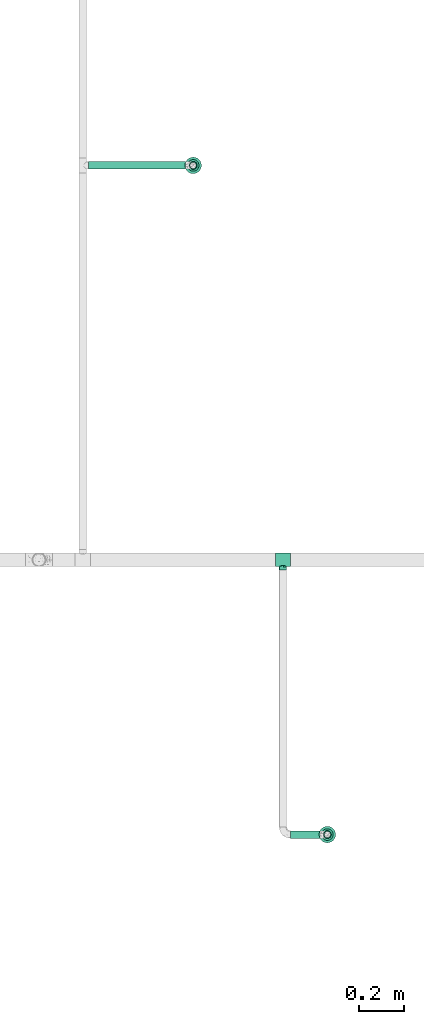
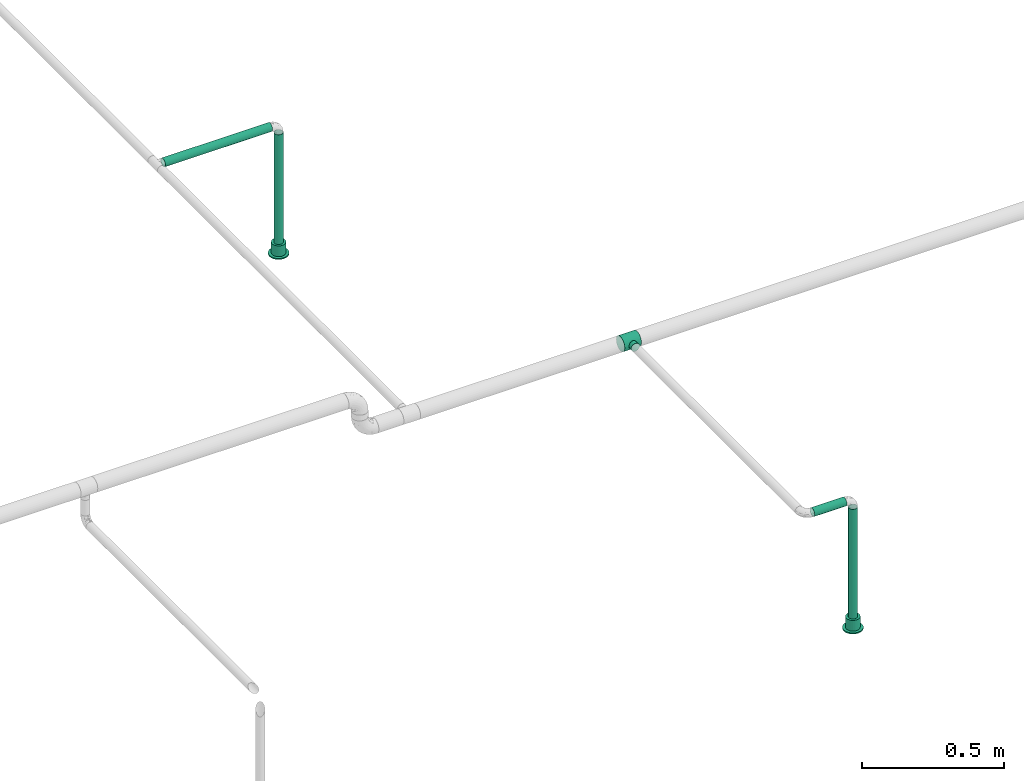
# One storey, part 25 of 95: 4 flow segments, 2 flow terminals, 1 flow fitting.
"""IFC2X3 building model written with IfcOpenShell, lengths in millimetres."""

from ifc_helpers import new_model, entity, si_unit, converted_unit, derived_unit, direction, frame, origin_with_axes, origin_2d_with_axis, place, context, subcontext, project, spatial, hollow_circle, extrude, open_shell, surface_model, source, transform, mapped, type_object, element, save


model = new_model("IFC2X3")

# Units and contexts
model_context = context("Model", 3, precision=0.01, world=frame((0.0, 4.29681676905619e-09, 0.0)), true_north=direction((4.01073788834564e-13, 1.0)))
plan_context = context("Plan", 3, precision=0.01, world=frame((0.0, 4.29681676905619e-09, 0.0)), true_north=direction((4.01073788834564e-13, 1.0)))
body_context = subcontext(model_context, "Body", "Model", "MODEL_VIEW")
ifc_project = project(units=[converted_unit("PLANEANGLEUNIT", "DEGREE", entity("IfcPositiveLengthMeasure", 0.0174532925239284), si_unit("PLANEANGLEUNIT", "RADIAN"), dimensions=[0, 0, 0, 0, 0, 0, 0]), si_unit("AREAUNIT", "SQUARE_METRE"), si_unit("LENGTHUNIT", "METRE", prefix="MILLI"), si_unit("MASSUNIT", "GRAM", prefix="KILO"), si_unit("POWERUNIT", "WATT"), si_unit("PRESSUREUNIT", "PASCAL"), si_unit("FORCEUNIT", "NEWTON", prefix="KILO"), si_unit("ELECTRICVOLTAGEUNIT", "VOLT"), si_unit("ELECTRICCURRENTUNIT", "AMPERE"), si_unit("THERMODYNAMICTEMPERATUREUNIT", "DEGREE_CELSIUS"), si_unit("TIMEUNIT", "SECOND"), si_unit("VOLUMEUNIT", "CUBIC_METRE"), derived_unit("LINEARVELOCITYUNIT", [(si_unit("LENGTHUNIT", "METRE"), 1), (si_unit("TIMEUNIT", "SECOND"), -1)]), derived_unit("VOLUMETRICFLOWRATEUNIT", [(si_unit("VOLUMEUNIT", "CUBIC_METRE"), 1), (si_unit("TIMEUNIT", "SECOND"), -1)]), derived_unit("THERMALTRANSMITTANCEUNIT", [(si_unit("POWERUNIT", "WATT"), 1), (si_unit("THERMODYNAMICTEMPERATUREUNIT", "KELVIN"), -1), (si_unit("AREAUNIT", "SQUARE_METRE"), -1)]), derived_unit("SOUNDPRESSUREUNIT", [(si_unit("PRESSUREUNIT", "PASCAL"), 1)])], contexts=[model_context, plan_context])

# Site, building, storey
site_placement = place(None, frame((0.0, -4.29681676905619e-09, 0.0), z_axis=(0.0, 0.0, 1.0), x_axis=(1.0, 0.0, 0.0)))
site = spatial("IfcSite", under=ifc_project, at=site_placement, CompositionType="ELEMENT")
building_placement = place(site_placement, frame((0.0, 4.29681676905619e-09, 0.0), z_axis=(0.0, 0.0, 1.0), x_axis=(1.0, 0.0, 0.0)))
building = spatial("IfcBuilding", under=site, at=building_placement, Name="mc-building", CompositionType="ELEMENT")
storey_placement = place(building_placement, frame((0.0, 0.0, 210900.0), z_axis=(0.0, 0.0, 1.0), x_axis=(1.0, 0.0, 0.0)))
storey = spatial("IfcBuildingStorey", under=building, at=storey_placement, Name="Nivå F", CompositionType="ELEMENT", Elevation=210900.0)

# Flow fitting
pipe_fitting_type = type_object("IfcPipeFittingType", Name="magi_pipe_fe_tee_centric_90_NOR", PredefinedType="JUNCTION")
shared_shape_1 = source(origin_with_axes(), body_context, "Body", "SurfaceModel", [
    surface_model("IfcShellBasedSurfaceModel", [(-33.8, 15.1, -26.15397), (-33.8, 7.81634, -29.17096), (-33.8, 0.0, -30.2), (-33.8, 29.17096, -7.81634), (-33.8, 26.15397, -15.1), (-33.8, 21.35462, -21.35462), (-33.8, 30.2, 0.0), (-33.8, -30.2, 0.0), (-33.8, -15.1, -26.15397), (-33.8, -21.35462, -21.35462), (-33.8, -7.81634, -29.17096), (-33.8, -26.15397, -15.1), (-33.8, -29.17096, -7.81634), (-33.8, 26.15397, 15.1), (-33.8, 29.17096, 7.81634), (-33.8, 15.1, 26.15397), (-33.8, -21.35462, 21.35462), (-33.8, 21.35462, 21.35462), (-33.8, 7.81634, 29.17096), (-33.8, -29.17096, 7.81634), (-33.8, -26.15397, 15.1), (-33.8, -7.81634, 29.17096), (-33.8, 0.0, 30.2), (-33.8, -15.1, 26.15397), (33.8, 29.17096, -7.81634), (33.8, 0.0, -30.2), (33.8, 7.81634, -29.17096), (33.8, 21.35462, -21.35462), (33.8, 15.1, -26.15397), (33.8, 26.15397, -15.1), (33.8, -30.2, 0.0), (33.8, -7.81634, -29.17096), (33.8, -21.35462, -21.35462), (33.8, -15.1, -26.15397), (33.8, -29.17096, -7.81634), (33.8, -26.15397, -15.1), (33.8, 30.2, 0.0), (33.8, 29.17096, 7.81634), (33.8, 26.15397, 15.1), (33.8, -29.17096, 7.81634), (33.8, 15.1, 26.15397), (33.8, 7.81634, 29.17096), (33.8, 21.35462, 21.35462), (33.8, -21.35462, 21.35462), (33.8, -26.15397, 15.1), (33.8, -15.1, 26.15397), (33.8, 0.0, 30.2), (33.8, -7.81634, 29.17096), (33.8, -29.68548, 3.90817), (15.846, -29.62306, 5.87488), (16.373, -29.91153, 2.93744), (12.91037, -28.16217, 10.90561), (2.99213, -25.2068, 16.63301), (16.9, -30.2, 0.0), (33.8, -27.66246, 11.45817), (8.50854, -26.43531, 14.60187), (-8.51006, -26.43579, 14.60099), (-33.8, -27.66246, 11.45817), (-12.91447, -28.16405, 10.90075), (-15.84655, -29.62335, 5.87341), (-33.8, -29.68548, 3.90817), (-16.37327, -29.91168, 2.93671), (-16.9, -30.2, 0.0), (-2.99705, -25.20739, 16.63213), (2.99213, -25.2068, -16.63301), (-16.37327, -29.91168, -2.93671), (8.50854, -26.43531, -14.60187), (33.8, -27.66246, -11.45817), (16.373, -29.91153, -2.93744), (-33.8, -29.68548, -3.90817), (-15.84655, -29.62335, -5.87341), (15.846, -29.62306, -5.87488), (12.91037, -28.16217, -10.90561), (33.8, -29.68548, -3.90817), (-2.99705, -25.20739, -16.63213), (-8.51006, -26.43579, -14.60099), (-12.91447, -28.16405, -10.90075), (-33.8, -27.66246, -11.45817), (4.37404, -45.3, -16.32415), (-16.9, -45.3, 0.0), (0.0, -45.3, -16.9), (14.63583, -45.3, -8.45), (8.45, -45.3, -14.63583), (16.32415, -45.3, -4.37404), (11.9501, -45.3, -11.9501), (-11.9501, -45.3, -11.9501), (-8.45, -45.3, -14.63583), (-4.37404, -45.3, -16.32415), (-14.63583, -45.3, -8.45), (-16.32415, -45.3, -4.37404), (16.9, -45.3, 0.0), (8.45, -45.3, 14.63583), (16.32415, -45.3, 4.37404), (14.63583, -45.3, 8.45), (-8.45, -45.3, 14.63583), (11.9501, -45.3, 11.9501), (4.37404, -45.3, 16.32415), (-16.32415, -45.3, 4.37404), (-11.9501, -45.3, 11.9501), (-14.63583, -45.3, 8.45), (0.0, -45.3, 16.9), (-4.37404, -45.3, 16.32415), (-5.75355, -25.82159, 15.61656), (-0.00246, -25.20709, 16.63257), (5.75034, -25.82105, 15.61744), (5.75034, -25.82105, -15.61744), (-0.00246, -25.20709, -16.63257), (-5.75355, -25.82159, -15.61656)], [open_shell([[[0, 1, 2]], [[3, 0, 2]], [[0, 3, 4]], [[5, 0, 4]], [[6, 2, 7]], [[8, 9, 10]], [[9, 2, 10]], [[11, 12, 9]], [[7, 9, 12]], [[9, 7, 2]], [[6, 3, 2]], [[13, 14, 6]], [[7, 15, 13]], [[7, 16, 15]], [[17, 13, 15]], [[18, 15, 16]], [[19, 20, 7]], [[7, 20, 16]], [[21, 22, 23]], [[16, 23, 22]], [[16, 22, 18]], [[7, 13, 6]], [[24, 25, 26]], [[27, 26, 28]], [[29, 24, 26]], [[29, 26, 27]], [[25, 24, 30]], [[31, 32, 33]], [[32, 31, 34]], [[32, 34, 35]], [[34, 31, 30]], [[31, 25, 30]], [[24, 36, 30]], [[36, 37, 38]], [[39, 36, 38]], [[40, 41, 38]], [[40, 38, 42]], [[43, 38, 41]], [[39, 43, 44]], [[39, 38, 43]], [[45, 46, 47]], [[46, 45, 43]], [[41, 46, 43]], [[36, 39, 30]], [[48, 39, 49]], [[30, 48, 50]], [[39, 51, 49]], [[44, 43, 52]], [[30, 50, 53]], [[51, 54, 55]], [[52, 55, 44]], [[48, 49, 50]], [[43, 16, 52]], [[55, 54, 44]], [[56, 57, 58]], [[59, 60, 61]], [[62, 61, 7]], [[59, 58, 19]], [[56, 63, 20]], [[51, 39, 54]], [[20, 57, 56]], [[20, 63, 16]], [[58, 57, 19]], [[63, 52, 16]], [[7, 61, 60]], [[59, 19, 60]], [[43, 23, 16]], [[22, 47, 46]], [[21, 45, 47]], [[18, 46, 41]], [[38, 37, 14]], [[17, 40, 42]], [[13, 42, 38]], [[41, 40, 15]], [[6, 37, 36]], [[23, 45, 21]], [[21, 47, 22]], [[18, 22, 46]], [[41, 15, 18]], [[15, 40, 17]], [[13, 17, 42]], [[14, 13, 38]], [[37, 6, 14]], [[45, 23, 43]], [[4, 24, 29]], [[3, 36, 24]], [[5, 29, 27]], [[25, 31, 10]], [[1, 28, 26]], [[2, 26, 25]], [[27, 28, 0]], [[8, 31, 33]], [[6, 36, 3]], [[3, 24, 4]], [[5, 4, 29]], [[27, 0, 5]], [[0, 28, 1]], [[2, 1, 26]], [[10, 2, 25]], [[31, 8, 10]], [[33, 9, 8]], [[32, 35, 64]], [[7, 65, 62]], [[66, 64, 35]], [[67, 66, 35]], [[32, 64, 9]], [[53, 68, 30]], [[69, 70, 65]], [[71, 72, 34]], [[71, 73, 68]], [[66, 67, 72]], [[34, 72, 67]], [[74, 75, 11]], [[76, 12, 77]], [[11, 9, 74]], [[76, 77, 75]], [[74, 9, 64]], [[76, 70, 12]], [[71, 34, 73]], [[70, 69, 12]], [[65, 7, 69]], [[30, 68, 73]], [[77, 11, 75]], [[32, 9, 33]], [[78, 79, 80]], [[81, 78, 82]], [[81, 83, 78]], [[81, 82, 84]], [[79, 78, 83]], [[80, 85, 86]], [[86, 87, 80]], [[88, 79, 89]], [[85, 80, 88]], [[79, 88, 80]], [[83, 90, 79]], [[91, 90, 92]], [[91, 92, 93]], [[94, 79, 91]], [[91, 93, 95]], [[94, 91, 96]], [[97, 98, 99]], [[98, 97, 94]], [[94, 100, 101]], [[97, 79, 94]], [[96, 100, 94]], [[91, 79, 90]], [[97, 61, 79]], [[58, 99, 98]], [[97, 99, 59]], [[98, 94, 56]], [[61, 62, 79]], [[59, 99, 58]], [[101, 63, 102]], [[56, 58, 98]], [[100, 52, 103]], [[91, 104, 96]], [[100, 96, 52]], [[50, 49, 92]], [[50, 90, 53]], [[104, 91, 55]], [[102, 94, 101]], [[102, 56, 94]], [[100, 63, 101]], [[97, 59, 61]], [[55, 91, 95]], [[95, 51, 55]], [[52, 96, 104]], [[92, 49, 93]], [[90, 50, 92]], [[93, 49, 51]], [[93, 51, 95]], [[103, 63, 100]], [[83, 68, 90]], [[72, 81, 84]], [[83, 81, 71]], [[84, 82, 66]], [[68, 53, 90]], [[71, 81, 72]], [[78, 64, 105]], [[66, 72, 84]], [[80, 74, 106]], [[86, 107, 87]], [[65, 70, 89]], [[105, 82, 78]], [[105, 66, 82]], [[75, 86, 85]], [[83, 71, 68]], [[70, 88, 89]], [[65, 79, 62]], [[85, 88, 76]], [[80, 64, 78]], [[87, 107, 74]], [[74, 80, 87]], [[75, 107, 86]], [[75, 85, 76]], [[76, 88, 70]], [[79, 65, 89]], [[106, 64, 80]]])]),
])
flow_fitting_placement = place(storey_placement, frame((530900.0, 450838.0, 4310.0), z_axis=(0.0, 0.0, 1.0), x_axis=(1.0, 0.0, 0.0)))
element("IfcFlowFitting", 1, at=flow_fitting_placement, inside=storey, type_object=pipe_fitting_type, Name="magi_pipe_fe_tee_centric_90_NOR", context=body_context, shape_type="MappedRepresentation", body=[
    mapped(shared_shape_1, transform((0.0, 0.0, 0.0), scale=1.0)),
])

# Flow segments
pipe_segment_type = type_object("IfcPipeSegmentType", Name="Stålrør normaltykke", PredefinedType="RIGIDSEGMENT")
shared_shape_2 = source(origin_with_axes(), body_context, "Body", "SweptSolid", [
    extrude(hollow_circle(Radius=16.9, WallThickness=2.0, at=origin_2d_with_axis()), frame((0.0, 0.0, 0.0), z_axis=(1.0, 0.0, 0.0), x_axis=(0.0, 1.0, 0.0)), (0.0, 0.0, 1.0), 131.1),
])
flow_segment_1_placement = place(storey_placement, frame((530933.8, 449607.85, 4310.0), z_axis=(0.0, 0.0, 1.0), x_axis=(1.0, 0.0, 0.0)))
element("IfcFlowSegment", 2, at=flow_segment_1_placement, inside=storey, type_object=pipe_segment_type, Name="Stålrør normaltykke", context=body_context, shape_type="MappedRepresentation", body=[
    mapped(shared_shape_2, transform((0.0, 0.0, 0.0), scale=1.0)),
])
shared_shape_3 = source(origin_with_axes(), body_context, "Body", "SweptSolid", [
    extrude(hollow_circle(Radius=16.9, WallThickness=2.0, at=origin_2d_with_axis()), frame((0.0, 0.0, 0.0), z_axis=(1.0, 0.0, 0.0), x_axis=(0.0, 1.0, 0.0)), (0.0, 0.0, 1.0), 506.9),
])
for number, where, z_axis, x_axis in (
    (3, (531098.68266, 449607.85, 4276.20000000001), (-0.000893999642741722, -0.99999960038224, 0.0), (0.0, 0.0, -1.0)),
    (4, (530498.24193, 452603.51992, 4276.20000000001), (-0.000893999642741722, -0.99999960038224, 0.0), (0.0, 0.0, -1.0)),
):
    element("IfcFlowSegment", number, at=place(storey_placement, frame(where, z_axis=z_axis, x_axis=x_axis)), inside=storey, type_object=pipe_segment_type, Name="Stålrør normaltykke", context=body_context, shape_type="MappedRepresentation", body=[
        mapped(shared_shape_3, transform((0.0, 0.0, 0.0), scale=1.0)),
    ])
shared_shape_4 = source(origin_with_axes(), body_context, "Body", "SweptSolid", [
    extrude(hollow_circle(Radius=16.9, WallThickness=2.0, at=origin_2d_with_axis()), frame((0.0, 0.0, 0.0), z_axis=(1.0, 0.0, 0.0), x_axis=(0.0, 1.0, 0.0)), (0.0, 0.0, 1.0), 435.2),
])
flow_segment_2_placement = place(storey_placement, frame((530464.44193, 452603.51992, 4310.0), z_axis=(0.0, 0.0, 1.0), x_axis=(-1.0, 0.0, 0.0)))
element("IfcFlowSegment", 5, at=flow_segment_2_placement, inside=storey, type_object=pipe_segment_type, Name="Stålrør normaltykke", context=body_context, shape_type="MappedRepresentation", body=[
    mapped(shared_shape_4, transform((0.0, 0.0, 0.0), scale=1.0)),
])

# Flow terminals
fire_suppression_terminal_type = type_object("IfcFireSuppressionTerminalType", Name="68DGR-STD-SKJULT I HIMLING", PredefinedType="NOTDEFINED")
shared_shape_5 = source(origin_with_axes(), body_context, "Body", "SurfaceModel", [
    surface_model("IfcShellBasedSurfaceModel", [(-26.0, 0.0, -46.0), (-25.11407, -6.72929, -46.0), (-25.11407, -6.72929, 0.0), (6.72929, -25.11407, 0.0), (6.72929, -25.11407, -46.0), (13.0, -22.51666, -46.0), (22.51666, -13.0, -46.0), (22.51666, -13.0, 0.0), (18.38478, -18.38478, 0.0), (25.11407, -6.72929, 0.0), (25.11407, -6.72929, -46.0), (26.0, 0.0, -46.0), (26.0, 0.0, 0.0), (25.11407, 6.72929, -46.0), (22.51666, 13.0, 0.0), (25.11407, 6.72929, 0.0), (13.0, 22.51666, -46.0), (6.72929, 25.11407, -46.0), (6.72929, 25.11407, 0.0), (18.38478, 18.38478, 0.0), (22.51666, 13.0, -46.0), (-25.11407, 6.72929, 0.0), (-25.11407, 6.72929, -46.0), (-26.16295, -26.16295, 5.0), (35.73926, -9.57631, 5.0), (37.0, 0.0, 5.0), (13.0, 22.51666, 0.0), (-26.0, 0.0, 0.0), (-13.0, 22.51666, 0.0), (-6.72929, 25.11407, 0.0), (0.0, 26.0, 0.0), (-22.51666, 13.0, 0.0), (-18.38478, 18.38478, 0.0), (13.0, -22.51666, 0.0), (0.0, -26.0, 0.0), (-22.51666, -13.0, 0.0), (-18.38478, -18.38478, 0.0), (-13.0, -22.51666, 0.0), (-6.72929, -25.11407, 0.0), (0.0, -26.0, -46.0), (18.38478, -18.38478, -46.0), (-18.38478, -18.38478, -46.0), (-13.0, -22.51666, -46.0), (-6.72929, -25.11407, -46.0), (-22.51666, -13.0, -46.0), (18.38478, 18.38478, -46.0), (-22.51666, 13.0, -46.0), (-18.38478, 18.38478, -46.0), (-13.0, 22.51666, -46.0), (-6.72929, 25.11407, -46.0), (0.0, 26.0, -46.0), (18.5, 32.04294, 5.0), (9.57631, 35.73926, 5.0), (35.73926, 9.57631, 5.0), (26.16295, 26.16295, 5.0), (32.04294, 18.5, 5.0), (-35.73926, -9.57631, 5.0), (-18.5, 32.04294, 5.0), (-9.57631, 35.73926, 5.0), (0.0, 37.0, 5.0), (-32.04294, 18.5, 5.0), (-35.73926, 9.57631, 5.0), (-26.16295, 26.16295, 5.0), (-37.0, 0.0, 5.0), (32.04294, -18.5, 5.0), (0.0, -37.0, 5.0), (26.16295, -26.16295, 5.0), (18.5, -32.04294, 5.0), (9.57631, -35.73926, 5.0), (-9.57631, -35.73926, 5.0), (-32.04294, -18.5, 5.0), (-18.5, -32.04294, 5.0), (18.5, -32.04294, 0.0), (9.57631, -35.73926, 0.0), (0.0, -37.0, 0.0), (32.04294, -18.5, 0.0), (-26.16295, -26.16295, 0.0), (26.16295, -26.16295, 0.0), (-35.73926, 9.57631, 0.0), (-18.5, -32.04294, 0.0), (-9.57631, -35.73926, 0.0), (-32.04294, -18.5, 0.0), (-35.73926, -9.57631, 0.0), (-37.0, 0.0, 0.0), (35.73926, -9.57631, 0.0), (35.73926, 9.57631, 0.0), (32.04294, 18.5, 0.0), (18.5, 32.04294, 0.0), (9.57631, 35.73926, 0.0), (26.16295, 26.16295, 0.0), (-32.04294, 18.5, 0.0), (-26.16295, 26.16295, 0.0), (-9.57631, 35.73926, 0.0), (0.0, 37.0, 0.0), (-18.5, 32.04294, 0.0), (37.0, 0.0, 0.0)], [open_shell([[[0, 1, 2]], [[3, 4, 5]], [[6, 7, 8]], [[9, 7, 10]], [[11, 12, 9]], [[13, 14, 15]], [[15, 12, 11]], [[16, 17, 18]], [[19, 14, 20]], [[21, 22, 0]], [[23, 24, 25]], [[19, 26, 18]], [[19, 18, 21]], [[27, 15, 19]], [[14, 19, 15]], [[19, 21, 27]], [[28, 21, 29]], [[18, 30, 29]], [[31, 21, 32]], [[28, 32, 21]], [[29, 21, 18]], [[12, 15, 27]], [[8, 7, 9]], [[33, 8, 9]], [[34, 3, 33]], [[9, 34, 33]], [[27, 34, 9]], [[2, 35, 27]], [[36, 27, 35]], [[37, 38, 36]], [[34, 27, 36]], [[36, 38, 34]], [[12, 27, 9]], [[5, 4, 39]], [[5, 39, 22]], [[10, 6, 40]], [[5, 10, 40]], [[39, 41, 22]], [[42, 41, 43]], [[41, 39, 43]], [[1, 0, 44]], [[44, 0, 22]], [[22, 41, 44]], [[10, 5, 22]], [[45, 13, 10]], [[20, 13, 45]], [[17, 16, 45]], [[10, 22, 45]], [[45, 22, 17]], [[46, 47, 22]], [[48, 22, 47]], [[48, 49, 22]], [[49, 17, 22]], [[49, 50, 17]], [[11, 10, 13]], [[46, 22, 21]], [[46, 31, 47]], [[49, 48, 28]], [[32, 48, 47]], [[50, 49, 29]], [[21, 0, 27]], [[21, 31, 46]], [[31, 32, 47]], [[48, 32, 28]], [[28, 29, 49]], [[29, 30, 50]], [[16, 26, 45]], [[13, 20, 14]], [[19, 20, 45]], [[11, 13, 15]], [[30, 18, 17]], [[18, 26, 16]], [[26, 19, 45]], [[50, 30, 17]], [[11, 9, 10]], [[10, 7, 6]], [[3, 39, 4]], [[6, 8, 40]], [[3, 5, 33]], [[8, 33, 5]], [[5, 40, 8]], [[3, 34, 39]], [[42, 43, 38]], [[42, 37, 41]], [[1, 44, 35]], [[36, 44, 41]], [[34, 38, 43]], [[38, 37, 42]], [[37, 36, 41]], [[36, 35, 44]], [[1, 35, 2]], [[2, 27, 0]], [[39, 34, 43]], [[51, 52, 53]], [[54, 51, 55]], [[56, 52, 57]], [[55, 51, 53]], [[52, 56, 53]], [[58, 57, 59]], [[57, 52, 59]], [[60, 61, 62]], [[57, 62, 63]], [[62, 61, 63]], [[53, 23, 25]], [[64, 24, 65]], [[66, 64, 67]], [[65, 68, 67]], [[64, 65, 67]], [[69, 65, 24]], [[70, 23, 56]], [[56, 57, 63]], [[71, 69, 23]], [[23, 53, 56]], [[24, 23, 69]], [[72, 73, 74]], [[75, 72, 74]], [[76, 75, 74]], [[77, 72, 75]], [[75, 76, 78]], [[79, 76, 80]], [[76, 74, 80]], [[81, 82, 76]], [[82, 78, 76]], [[83, 78, 82]], [[75, 78, 84]], [[85, 84, 78]], [[86, 85, 87]], [[85, 88, 87]], [[89, 86, 87]], [[88, 85, 78]], [[90, 91, 78]], [[91, 88, 78]], [[92, 93, 94]], [[88, 91, 94]], [[88, 94, 93]], [[95, 84, 85]], [[83, 61, 78]], [[78, 60, 90]], [[94, 91, 57]], [[62, 91, 90]], [[92, 94, 58]], [[61, 60, 78]], [[83, 63, 61]], [[94, 57, 58]], [[57, 91, 62]], [[90, 60, 62]], [[92, 58, 59]], [[59, 93, 92]], [[93, 52, 88]], [[88, 51, 87]], [[86, 89, 55]], [[54, 89, 87]], [[85, 86, 53]], [[51, 54, 87]], [[88, 52, 51]], [[85, 53, 25]], [[53, 86, 55]], [[89, 54, 55]], [[85, 25, 95]], [[59, 52, 93]], [[95, 24, 84]], [[84, 64, 75]], [[72, 77, 67]], [[66, 77, 75]], [[73, 72, 68]], [[24, 64, 84]], [[95, 25, 24]], [[72, 67, 68]], [[67, 77, 66]], [[75, 64, 66]], [[73, 68, 65]], [[65, 74, 73]], [[74, 69, 80]], [[80, 71, 79]], [[81, 76, 70]], [[23, 76, 79]], [[82, 81, 56]], [[71, 23, 79]], [[80, 69, 71]], [[82, 56, 63]], [[56, 81, 70]], [[76, 23, 70]], [[82, 63, 83]], [[65, 69, 74]]])]),
])
for number, where, z_axis, x_axis, name in (
    (6, (531098.68266, 449607.85, 3759.89999999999), (0.0, 0.0, -1.0), (1.0, 0.0, 0.0), "68DGR-STD-SKJULT I HIMLING"),
    (7, (530498.24193, 452603.51992, 3759.89999999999), (0.0, 0.0, -1.0), (1.0, 0.0, 0.0), "68DGR-STD-SKJULT I HIMLING"),
):
    element("IfcFlowTerminal", number, at=place(storey_placement, frame(where, z_axis=z_axis, x_axis=x_axis)), inside=storey, type_object=fire_suppression_terminal_type, Name=name, context=body_context, shape_type="MappedRepresentation", body=[
        mapped(shared_shape_5, transform((0.0, 0.0, 0.0), scale=1.0)),
    ])

save(model, "model.ifc")
